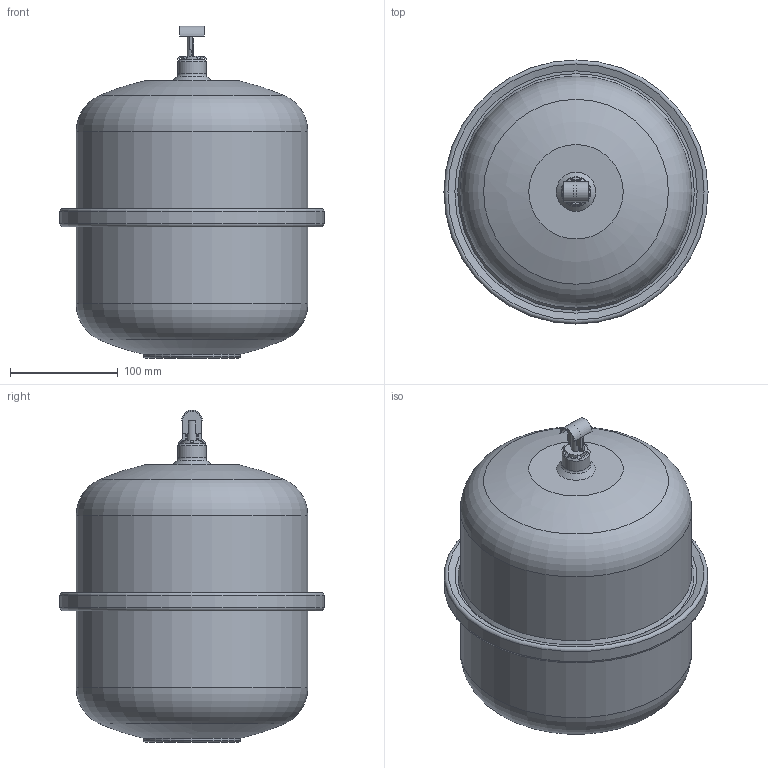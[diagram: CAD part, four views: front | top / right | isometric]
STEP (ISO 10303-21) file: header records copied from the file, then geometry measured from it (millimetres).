
FILE_DESCRIPTION(/* description */ (''),/* implementation_level */ '2;1');
FILE_NAME(/* name */ '\\DATASERVER\data\Flamco\3D-Modellen\Inventor\Airfix\Airfix A\24259_airfix_a_8l_10_4.stp',/* time_stamp */ '2025-05-06T11:16:06+02:00',/* author */ ('kasius'),/* organization */ (''),/* preprocessor_version */ 'ST-DEVELOPER v18.1',/* originating_system */ 'Autodesk Inventor 2021',/* authorisation */ '');
FILE_SCHEMA (('AUTOMOTIVE_DESIGN { 1 0 10303 214 3 1 1 }'));
Length unit declared in the file: millimetre
Products named in the file (1): 24259_airfix_a_8l_10_4
Bounding box: 245 x 245 x 308.08 mm (x, y, z)
Volume: 8542646.8 mm3; surface area: 246987 mm2
Topology: 2 solids, 2 shells, 110 faces, 307 edges, 207 vertices
Faces by surface type: plane 77, cylinder 15, cone 10, torus 6, sphere 2
Full cylindrical faces by diameter (mm): 7 x1, 8.8 x1, 18 x1, 20 x1, 20.8 x1, 26 x1, 90 x1, 215 x2, 245 x1
Entity records: 3737 total; most frequent: DIRECTION 634, CARTESIAN_POINT 625, ORIENTED_EDGE 614, EDGE_CURVE 307, AXIS2_PLACEMENT_3D 216, VERTEX_POINT 207, LINE 202, VECTOR 202
